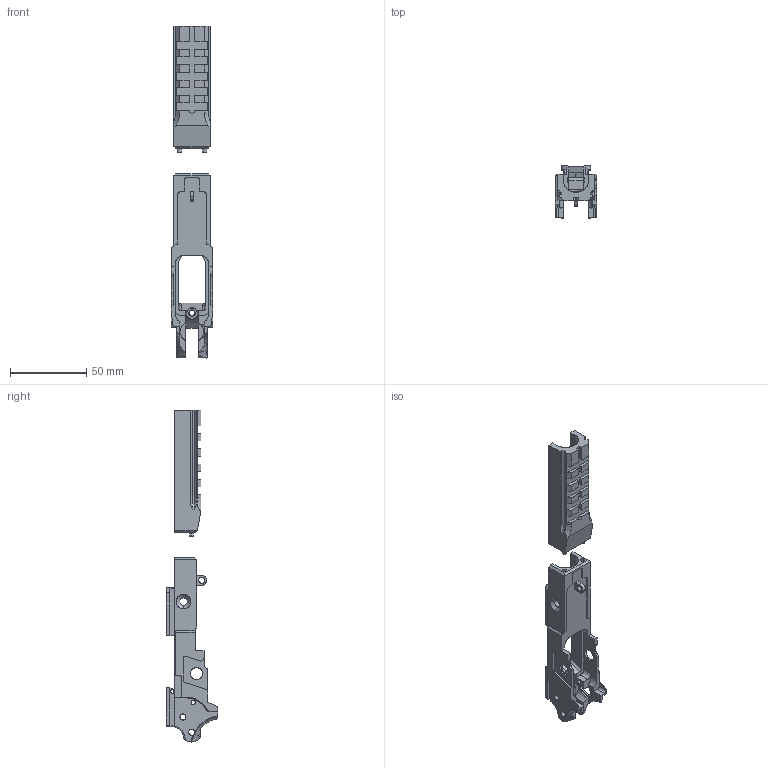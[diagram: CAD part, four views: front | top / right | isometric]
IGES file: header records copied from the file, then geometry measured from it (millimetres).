
Start section: SolidWorks IGES FILE using analytic representation for surfaces
Global section: file name: C:\AAA_Downloads\Gun Drawings\Guns\Iges Files\STI.IGS; native system: SolidWorks 2004 by SolidWorks Corporation; preprocessor: Version 5.3; author: Me; date: 040223.232407; units: inch
Bounding box: 27.03 x 33.91 x 217.41 mm (x, y, z)
Surface area: 24622.8 mm2 (no closed solid volume)
Topology: 0 solids, 0 shells, 376 faces, 4566 edges, 4562 vertices
Faces by surface type: bspline 230, revolution 146
